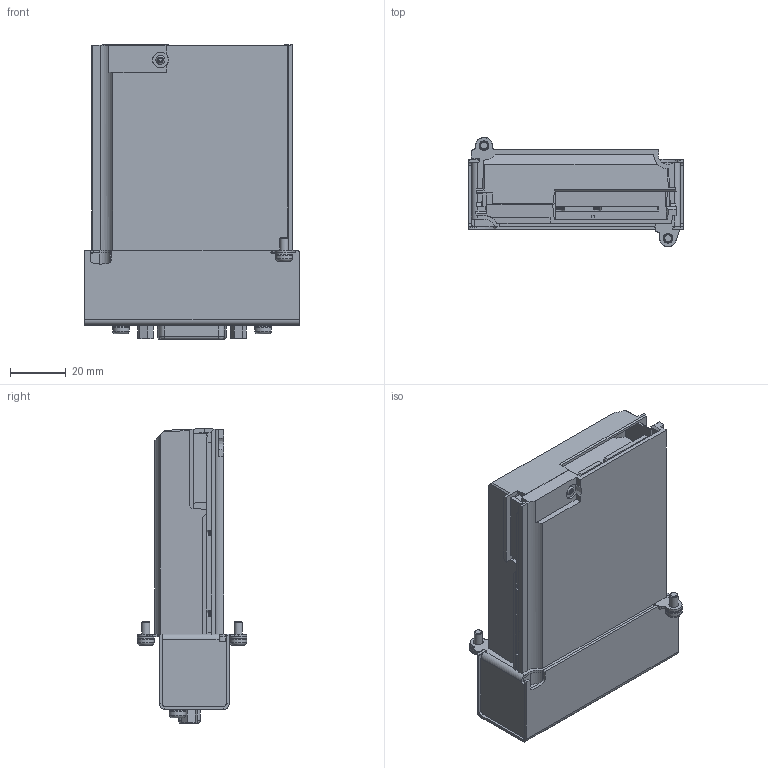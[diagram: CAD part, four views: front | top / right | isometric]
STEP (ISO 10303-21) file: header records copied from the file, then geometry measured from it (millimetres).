
FILE_DESCRIPTION(/* description */ (''),/* implementation_level */ '2;1');
FILE_NAME(/* name */ 'A:\Data\Interfaces\presentations\interf analog\Int mod ana.stp',/* time_stamp */ '2021-01-12T14:47:10+01:00',/* author */ ('Delta'),/* organization */ (''),/* preprocessor_version */ 'ST-DEVELOPER v17.2',/* originating_system */ 'Autodesk Inventor 2019',/* authorisation */ '');
FILE_SCHEMA (('AUTOMOTIVE_DESIGN { 1 0 10303 214 3 1 1 }'));
Length unit declared in the file: millimetre
Products named in the file (1): Int mod ana
Bounding box: 77 x 39.19 x 105.7 mm (x, y, z)
Volume: 161904.3 mm3; surface area: 31686.6 mm2
Topology: 1 solids, 1 shells, 1328 faces, 3546 edges, 2318 vertices
Faces by surface type: plane 910, bspline 227, cylinder 138, cone 41, torus 12
Full cylindrical faces by diameter (mm): 1.1 x15, 2.156 x2, 2.75 x2, 3 x5, 3.2 x4, 3.5 x2, 6 x8
Entity records: 44093 total; most frequent: CARTESIAN_POINT 10801, ORIENTED_EDGE 7080, DIRECTION 5676, EDGE_CURVE 3540, LINE 2594, VECTOR 2594, VERTEX_POINT 2318, AXIS2_PLACEMENT_3D 1541
